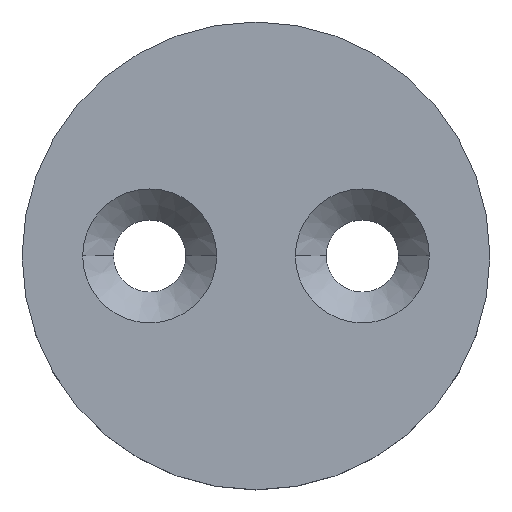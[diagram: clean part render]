
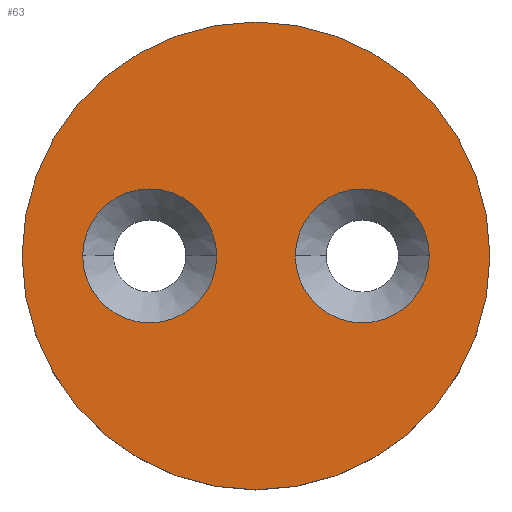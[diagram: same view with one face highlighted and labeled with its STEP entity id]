
A CAD part, top view. The second image highlights one B-rep face of the part: STEP entity #63.
In plain terms, the highlighted planar face has unit normal (0, 0, 1).
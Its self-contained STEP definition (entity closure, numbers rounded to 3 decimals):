
#16 = DIRECTION ( 'NONE',  ( 1., 0., 0. ) ) ;
#20 = FACE_BOUND ( 'NONE', #213, .T. ) ;
#24 = VERTEX_POINT ( 'NONE', #56 ) ;
#27 = CARTESIAN_POINT ( 'NONE',  ( -11., 0., 4. ) ) ;
#28 = ORIENTED_EDGE ( 'NONE', *, *, #239, .T. ) ;
#30 = DIRECTION ( 'NONE',  ( 1., 0., 0. ) ) ;
#39 = DIRECTION ( 'NONE',  ( 1., 0., 0. ) ) ;
#40 = CARTESIAN_POINT ( 'NONE',  ( -5., 0., 4. ) ) ;
#41 = EDGE_CURVE ( 'NONE', #263, #118, #134, .T. ) ;
#43 = AXIS2_PLACEMENT_3D ( 'NONE', #40, #385, #39 ) ;
#50 = CARTESIAN_POINT ( 'NONE',  ( -5., 0., 4. ) ) ;
#54 = PLANE ( 'NONE',  #326 ) ;
#56 = CARTESIAN_POINT ( 'NONE',  ( 8.15, 0., 4. ) ) ;
#58 = AXIS2_PLACEMENT_3D ( 'NONE', #302, #152, #30 ) ;
#63 = ADVANCED_FACE ( 'NONE', ( #240, #20, #148 ), #54, .T. ) ;
#108 = DIRECTION ( 'NONE',  ( 0., 0., 1. ) ) ;
#112 = CARTESIAN_POINT ( 'NONE',  ( 0., 0., 4. ) ) ;
#118 = VERTEX_POINT ( 'NONE', #27 ) ;
#122 = DIRECTION ( 'NONE',  ( 0., 0., 1. ) ) ;
#134 = CIRCLE ( 'NONE', #278, 11. ) ;
#137 = EDGE_CURVE ( 'NONE', #24, #349, #204, .T. ) ;
#148 = FACE_OUTER_BOUND ( 'NONE', #380, .T. ) ;
#152 = DIRECTION ( 'NONE',  ( 0., 0., 1. ) ) ;
#155 = EDGE_LOOP ( 'NONE', ( #360, #180 ) ) ;
#165 = CARTESIAN_POINT ( 'NONE',  ( 1.85, 0., 4. ) ) ;
#166 = EDGE_CURVE ( 'NONE', #349, #24, #294, .T. ) ;
#180 = ORIENTED_EDGE ( 'NONE', *, *, #166, .F. ) ;
#181 = AXIS2_PLACEMENT_3D ( 'NONE', #183, #122, #338 ) ;
#183 = CARTESIAN_POINT ( 'NONE',  ( 5., 0., 4. ) ) ;
#185 = CARTESIAN_POINT ( 'NONE',  ( 5., 0., 4. ) ) ;
#187 = DIRECTION ( 'NONE',  ( 1., 0., 0. ) ) ;
#199 = AXIS2_PLACEMENT_3D ( 'NONE', #185, #412, #187 ) ;
#202 = VERTEX_POINT ( 'NONE', #246 ) ;
#204 = CIRCLE ( 'NONE', #199, 3.15 ) ;
#207 = DIRECTION ( 'NONE',  ( 1., 0., 0. ) ) ;
#210 = DIRECTION ( 'NONE',  ( 0., 0., 1. ) ) ;
#213 = EDGE_LOOP ( 'NONE', ( #375, #270 ) ) ;
#219 = VERTEX_POINT ( 'NONE', #350 ) ;
#227 = CIRCLE ( 'NONE', #58, 11. ) ;
#235 = ORIENTED_EDGE ( 'NONE', *, *, #41, .T. ) ;
#239 = EDGE_CURVE ( 'NONE', #118, #263, #227, .T. ) ;
#240 = FACE_BOUND ( 'NONE', #155, .T. ) ;
#246 = CARTESIAN_POINT ( 'NONE',  ( -8.15, 0., 4. ) ) ;
#263 = VERTEX_POINT ( 'NONE', #279 ) ;
#270 = ORIENTED_EDGE ( 'NONE', *, *, #287, .F. ) ;
#278 = AXIS2_PLACEMENT_3D ( 'NONE', #305, #210, #340 ) ;
#279 = CARTESIAN_POINT ( 'NONE',  ( 11., 0., 4. ) ) ;
#287 = EDGE_CURVE ( 'NONE', #202, #219, #344, .T. ) ;
#294 = CIRCLE ( 'NONE', #181, 3.15 ) ;
#297 = DIRECTION ( 'NONE',  ( 0., 0., 1. ) ) ;
#302 = CARTESIAN_POINT ( 'NONE',  ( 0., 0., 4. ) ) ;
#305 = CARTESIAN_POINT ( 'NONE',  ( 0., 0., 4. ) ) ;
#316 = AXIS2_PLACEMENT_3D ( 'NONE', #50, #108, #16 ) ;
#322 = CIRCLE ( 'NONE', #43, 3.15 ) ;
#326 = AXIS2_PLACEMENT_3D ( 'NONE', #112, #297, #207 ) ;
#338 = DIRECTION ( 'NONE',  ( 1., 0., 0. ) ) ;
#340 = DIRECTION ( 'NONE',  ( 1., 0., 0. ) ) ;
#344 = CIRCLE ( 'NONE', #316, 3.15 ) ;
#349 = VERTEX_POINT ( 'NONE', #165 ) ;
#350 = CARTESIAN_POINT ( 'NONE',  ( -1.85, 0., 4. ) ) ;
#353 = EDGE_CURVE ( 'NONE', #219, #202, #322, .T. ) ;
#360 = ORIENTED_EDGE ( 'NONE', *, *, #137, .F. ) ;
#375 = ORIENTED_EDGE ( 'NONE', *, *, #353, .F. ) ;
#380 = EDGE_LOOP ( 'NONE', ( #28, #235 ) ) ;
#385 = DIRECTION ( 'NONE',  ( 0., 0., 1. ) ) ;
#412 = DIRECTION ( 'NONE',  ( 0., 0., 1. ) ) ;
